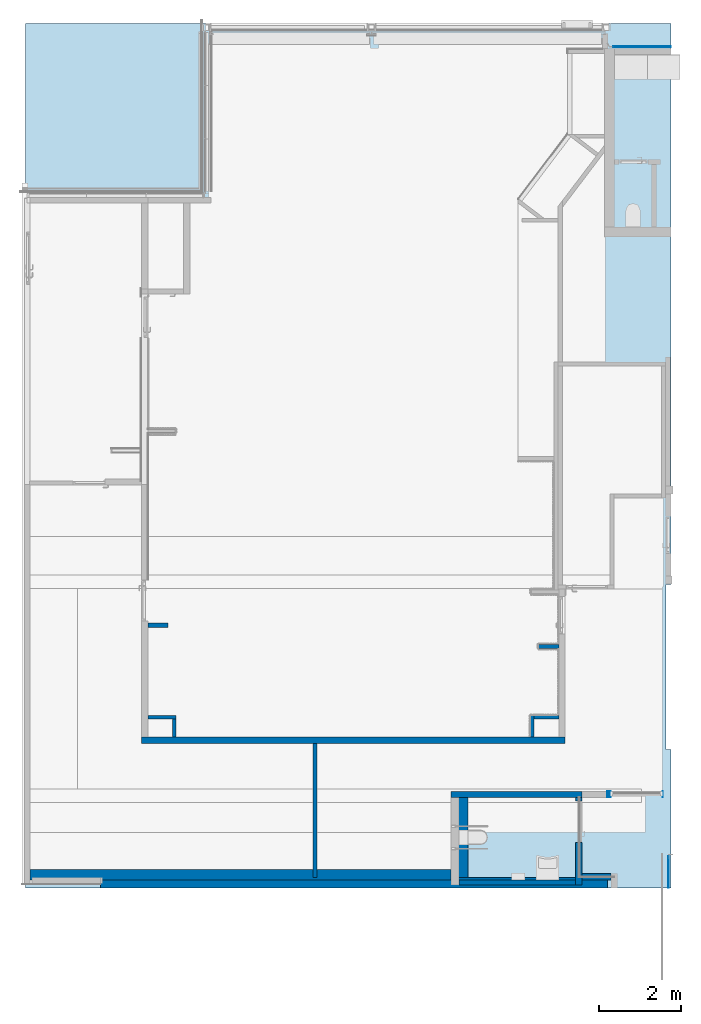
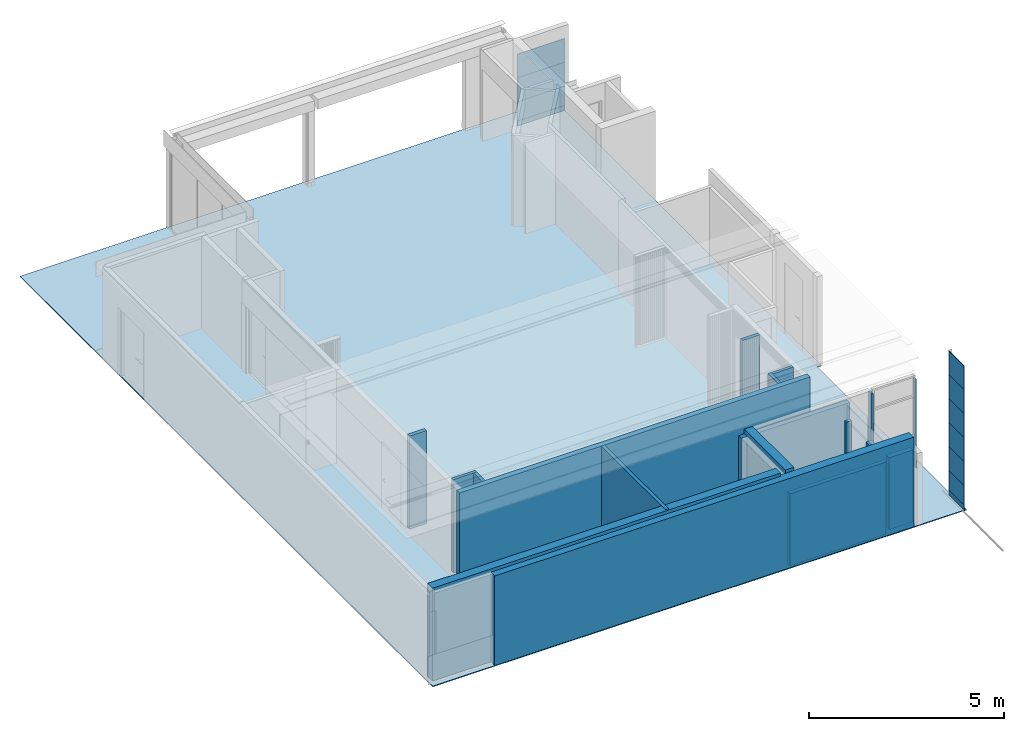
# One storey, part 20 of 37: 16 walls, 11 plates, 1 slab, 2 openings, 2 elements without a shape of their own.
"""IFC2X3 building model written with IfcOpenShell, lengths in millimetres."""

from ifc_helpers import new_model, entity, si_unit, converted_unit, derived_unit, direction, frame, frame_2d, origin, origin_with_axes, place, context, subcontext, project, spatial, rectangle, extrude, clip, halfspace, faceted_brep, material, layer, layer_set, layer_usage, type_object, element, aggregate, save


model = new_model("IFC2X3")

# Units and contexts
model_context = context("Model", 3, precision=0.01, world=frame((0.0, 4.29681676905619e-09, 0.0)), true_north=direction((4.01073788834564e-13, 1.0)))
plan_context = context("Plan", 3, precision=0.01, world=frame((0.0, 4.29681676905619e-09, 0.0)), true_north=direction((4.01073788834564e-13, 1.0)))
body_context = subcontext(model_context, "Body", "Model", "MODEL_VIEW")
ifc_project = project(units=[converted_unit("PLANEANGLEUNIT", "DEGREE", entity("IfcPositiveLengthMeasure", 0.0174532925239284), si_unit("PLANEANGLEUNIT", "RADIAN"), dimensions=[0, 0, 0, 0, 0, 0, 0]), si_unit("AREAUNIT", "SQUARE_METRE"), si_unit("LENGTHUNIT", "METRE", prefix="MILLI"), si_unit("MASSUNIT", "GRAM", prefix="KILO"), si_unit("POWERUNIT", "WATT"), si_unit("PRESSUREUNIT", "PASCAL"), si_unit("FORCEUNIT", "NEWTON", prefix="KILO"), si_unit("ELECTRICVOLTAGEUNIT", "VOLT"), si_unit("ELECTRICCURRENTUNIT", "AMPERE"), si_unit("THERMODYNAMICTEMPERATUREUNIT", "DEGREE_CELSIUS"), si_unit("TIMEUNIT", "SECOND"), si_unit("VOLUMEUNIT", "CUBIC_METRE"), derived_unit("LINEARVELOCITYUNIT", [(si_unit("LENGTHUNIT", "METRE"), 1), (si_unit("TIMEUNIT", "SECOND"), -1)]), derived_unit("VOLUMETRICFLOWRATEUNIT", [(si_unit("VOLUMEUNIT", "CUBIC_METRE"), 1), (si_unit("TIMEUNIT", "SECOND"), -1)]), derived_unit("THERMALTRANSMITTANCEUNIT", [(si_unit("POWERUNIT", "WATT"), 1), (si_unit("THERMODYNAMICTEMPERATUREUNIT", "KELVIN"), -1), (si_unit("AREAUNIT", "SQUARE_METRE"), -1)]), derived_unit("SOUNDPRESSUREUNIT", [(si_unit("PRESSUREUNIT", "PASCAL"), 1)])], contexts=[model_context, plan_context])

# Site, building, storey
site_placement = place(None, origin_with_axes())
site = spatial("IfcSite", under=ifc_project, at=site_placement, Name="ENGM", CompositionType="ELEMENT")
building_placement = place(site_placement, origin_with_axes())
building = spatial("IfcBuilding", under=site, at=building_placement, Name="TS", CompositionType="ELEMENT")
storey_placement = place(building_placement, frame((0.0, 0.0, 210900.0), z_axis=(0.0, 0.0, 1.0), x_axis=(1.0, 0.0, 0.0)))
storey = spatial("IfcBuildingStorey", under=building, at=storey_placement, Name="Nivå F", CompositionType="ELEMENT", Elevation=210900.0)

# Curtain wall, plates
curtain_wall_type_1 = type_object("IfcCurtainWallType", PredefinedType="NOTDEFINED")
curtain_wall_1_placement = place(storey_placement, frame((0.0, 0.0, -210900.0), z_axis=(0.0, 0.0, 1.0), x_axis=(1.0, 0.0, 0.0)))
curtain_wall_1 = element("IfcCurtainWall", 1, at=curtain_wall_1_placement, inside=storey, type_object=curtain_wall_type_1)
ifc_material_1 = material(Name="Metal - Steel")
plate_type_1 = type_object("IfcPlateType", Name="System Panel:A245 - Metallkasett Inv.20mm - Offset 30mm", PredefinedType="CURTAIN_PANEL", material=ifc_material_1)
plate_1_placement = place(curtain_wall_1_placement, frame((536299.987500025, 440039.80625, 210910.0), z_axis=(0.0, 0.0, 1.0), x_axis=(0.0, -1.0, 0.0)))
plate_1 = element("IfcPlate", 2, at=plate_1_placement, type_object=plate_type_1, Name="System Panel:A245 - Metallkasett Inv.20mm - Offset 30mm", ObjectType="System Panel:A245 - Metallkasett Inv.20mm - Offset 30mm", context=body_context, shape_type="Brep", body=[
    faceted_brep([(-735.19374999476, -50.0, -2.70006239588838e-13), (-735.19374999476, -30.0, -2.70006239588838e-13), (-1509.79374999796, -30.0, -2.70006239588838e-13), (-1509.79374999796, -50.0, -2.70006239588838e-13), (-1509.79374999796, -30.0, 150.0), (-1509.79374999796, -50.0, 150.0), (-735.19374999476, -30.0, 150.0), (-735.19374999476, -50.0, 150.0)], [[[0, 1, 2, 3]], [[3, 2, 4, 5]], [[6, 7, 5, 4]], [[7, 0, 3, 5]], [[1, 6, 4, 2]], [[7, 6, 1, 0]]], orient=[[False], [False], [False], [False], [False], [False]]),
])
plate_type_2 = type_object("IfcPlateType", Name="System Panel:A245 - Metallkasett Inv.20mm - Offset 30mm", PredefinedType="CURTAIN_PANEL", material=ifc_material_1)
plate_2_placement = place(curtain_wall_1_placement, frame((536299.987500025, 440184.80625, 211060.0), z_axis=(0.0, 0.0, 1.0), x_axis=(0.0, -1.0, 0.0)))
plate_2 = element("IfcPlate", 3, at=plate_2_placement, type_object=plate_type_2, Name="System Panel:A245 - Metallkasett Inv.20mm - Offset 30mm", ObjectType="System Panel:A245 - Metallkasett Inv.20mm - Offset 30mm", context=body_context, shape_type="Brep", body=[
    faceted_brep([(-590.19374999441, -50.0, 600.000000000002), (-590.193749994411, -50.0, 0.0), (-1364.79374999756, -50.0, 0.0), (-1364.79374999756, -50.0, 600.000000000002), (-590.19374999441, -30.0, 0.0), (-590.193749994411, -30.0, 600.000000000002), (-1364.79374999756, -30.0, 600.000000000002), (-1364.79374999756, -30.0, 0.0)], [[[0, 1, 2, 3]], [[4, 5, 6, 7]], [[7, 6, 3, 2]], [[1, 4, 7, 2]], [[5, 0, 3, 6]], [[5, 4, 1, 0]]], orient=[[False], [False], [False], [False], [False], [False]]),
])
plate_type_3 = type_object("IfcPlateType", Name="System Panel:A245 - Metallkasett Inv.20mm - Offset 30mm", PredefinedType="CURTAIN_PANEL", material=ifc_material_1)
plate_3_placement = place(curtain_wall_1_placement, frame((536299.987500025, 440184.80625, 213910.0), z_axis=(0.0, 0.0, 1.0), x_axis=(0.0, -1.0, 0.0)))
plate_3 = element("IfcPlate", 4, at=plate_3_placement, type_object=plate_type_3, Name="System Panel:A245 - Metallkasett Inv.20mm - Offset 30mm", ObjectType="System Panel:A245 - Metallkasett Inv.20mm - Offset 30mm", context=body_context, shape_type="Brep", body=[
    faceted_brep([(-590.193749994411, -50.0, 750.000000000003), (-590.193749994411, -50.0, 0.0), (-1364.99999999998, -50.0, 0.0), (-1364.99999999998, -50.0, 750.000000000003), (-590.193749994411, -30.0, 0.0), (-590.193749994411, -30.0, 750.000000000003), (-1364.99999999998, -30.0, 750.000000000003), (-1364.99999999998, -30.0, 0.0)], [[[0, 1, 2, 3]], [[4, 5, 6, 7]], [[7, 6, 3, 2]], [[1, 4, 7, 2]], [[5, 0, 3, 6]], [[5, 4, 1, 0]]], orient=[[False], [False], [False], [False], [False], [False]]),
])
plate_4_placement = place(curtain_wall_1_placement, frame((536299.987500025, 440184.80625, 213160.0), z_axis=(0.0, 0.0, 1.0), x_axis=(0.0, -1.0, 0.0)))
plate_4 = element("IfcPlate", 5, at=plate_4_placement, type_object=plate_type_3, Name="System Panel:A245 - Metallkasett Inv.20mm - Offset 30mm", ObjectType="System Panel:A245 - Metallkasett Inv.20mm - Offset 30mm", context=body_context, shape_type="Brep", body=[
    faceted_brep([(-590.193749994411, -50.0, 750.000000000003), (-590.193749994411, -50.0, 0.0), (-1364.99999999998, -50.0, 0.0), (-1364.99999999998, -50.0, 750.000000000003), (-590.193749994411, -30.0, 0.0), (-590.193749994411, -30.0, 750.000000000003), (-1364.99999999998, -30.0, 750.000000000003), (-1364.99999999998, -30.0, 0.0)], [[[0, 1, 2, 3]], [[4, 5, 6, 7]], [[7, 6, 3, 2]], [[1, 4, 7, 2]], [[5, 0, 3, 6]], [[5, 4, 1, 0]]], orient=[[False], [False], [False], [False], [False], [False]]),
])
plate_5_placement = place(curtain_wall_1_placement, frame((536299.987500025, 440184.80625, 212410.0), z_axis=(0.0, 0.0, 1.0), x_axis=(0.0, -1.0, 0.0)))
plate_5 = element("IfcPlate", 6, at=plate_5_placement, type_object=plate_type_3, Name="System Panel:A245 - Metallkasett Inv.20mm - Offset 30mm", ObjectType="System Panel:A245 - Metallkasett Inv.20mm - Offset 30mm", context=body_context, shape_type="Brep", body=[
    faceted_brep([(-590.193749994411, -50.0, 750.000000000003), (-590.193749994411, -50.0, 0.0), (-1364.99999999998, -50.0, 0.0), (-1364.99999999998, -50.0, 750.000000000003), (-590.193749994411, -30.0, 0.0), (-590.193749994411, -30.0, 750.000000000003), (-1364.99999999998, -30.0, 750.000000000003), (-1364.99999999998, -30.0, 0.0)], [[[0, 1, 2, 3]], [[4, 5, 6, 7]], [[7, 6, 3, 2]], [[1, 4, 7, 2]], [[5, 0, 3, 6]], [[5, 4, 1, 0]]], orient=[[False], [False], [False], [False], [False], [False]]),
])
plate_6_placement = place(curtain_wall_1_placement, frame((536299.987500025, 440184.80625, 211660.0), z_axis=(0.0, 0.0, 1.0), x_axis=(0.0, -1.0, 0.0)))
plate_6 = element("IfcPlate", 7, at=plate_6_placement, type_object=plate_type_3, Name="System Panel:A245 - Metallkasett Inv.20mm - Offset 30mm", ObjectType="System Panel:A245 - Metallkasett Inv.20mm - Offset 30mm", context=body_context, shape_type="Brep", body=[
    faceted_brep([(-590.193749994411, -50.0, 750.000000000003), (-590.193749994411, -50.0, 0.0), (-1364.99999999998, -50.0, 0.0), (-1364.99999999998, -50.0, 750.000000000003), (-590.193749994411, -30.0, 0.0), (-590.193749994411, -30.0, 750.000000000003), (-1364.99999999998, -30.0, 750.000000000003), (-1364.99999999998, -30.0, 0.0)], [[[0, 1, 2, 3]], [[4, 5, 6, 7]], [[7, 6, 3, 2]], [[1, 4, 7, 2]], [[5, 0, 3, 6]], [[5, 4, 1, 0]]], orient=[[False], [False], [False], [False], [False], [False]]),
])
plate_type_4 = type_object("IfcPlateType", Name="System Panel:A245 - Metallkasett Inv.20mm - Offset 30mm", PredefinedType="CURTAIN_PANEL", material=ifc_material_1)
plate_7_placement = place(curtain_wall_1_placement, frame((536299.987500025, 440184.80625, 214660.0), z_axis=(0.0, 0.0, 1.0), x_axis=(0.0, -1.0, 0.0)))
plate_7 = element("IfcPlate", 8, at=plate_7_placement, type_object=plate_type_4, Name="System Panel:A245 - Metallkasett Inv.20mm - Offset 30mm", ObjectType="System Panel:A245 - Metallkasett Inv.20mm - Offset 30mm", context=body_context, shape_type="Brep", body=[
    faceted_brep([(-590.193749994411, -50.0000000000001, 740.0), (-590.193749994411, -50.0, 0.0), (-1364.99999999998, -50.0, 0.0), (-1364.99999999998, -50.0, 740.000000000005), (-590.193749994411, -30.0, 0.0), (-590.193749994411, -30.0000000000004, 740.0), (-1364.99999999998, -30.0, 740.000000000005), (-1364.99999999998, -30.0, 0.0)], [[[0, 1, 2, 3]], [[4, 5, 6, 7]], [[7, 6, 3, 2]], [[1, 4, 7, 2]], [[5, 0, 3, 6]], [[5, 4, 1, 0]]], orient=[[False], [False], [False], [False], [False], [False]]),
])
aggregate(curtain_wall_1, [plate_7, plate_3, plate_4, plate_5, plate_6, plate_2, plate_1])

curtain_wall_type_2 = type_object("IfcCurtainWallType", Name="Curtain Wall:A245 - IMK (Innvendig Metall Kledning) 20mm - Offset 30mm", PredefinedType="NOTDEFINED")
curtain_wall_2_placement = place(storey_placement, frame((0.0, 0.0, -210900.0), z_axis=(0.0, 0.0, 1.0), x_axis=(1.0, 0.0, 0.0)))
curtain_wall_2 = element("IfcCurtainWall", 9, at=curtain_wall_2_placement, inside=storey, type_object=curtain_wall_type_2, Name="Curtain Wall:A245 - IMK (Innvendig Metall Kledning) 20mm - Offset 30mm", ObjectType="Curtain Wall:A245 - IMK (Innvendig Metall Kledning) 20mm - Offset 30mm")
plate_type_5 = type_object("IfcPlateType", Name="System Panel:A240 - Metallkasett Inv.20mm - Offset 30mm", PredefinedType="CURTAIN_PANEL", material=ifc_material_1)
plate_8_placement = place(curtain_wall_2_placement, frame((538079.841852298, 461299.300000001, 210910.0), z_axis=(0.0, 0.0, 1.0), x_axis=(1.0, 0.0, 0.0)))
plate_8 = element("IfcPlate", 10, at=plate_8_placement, type_object=plate_type_5, Name="System Panel:A240 - Metallkasett Inv.20mm - Offset 30mm", ObjectType="System Panel:A240 - Metallkasett Inv.20mm - Offset 30mm", context=body_context, shape_type="Brep", body=[
    faceted_brep([(-1759.34185229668, 30.0, -2.70006239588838e-13), (-1759.34185229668, 50.0, -2.70006239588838e-13), (-3165.15814768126, 50.0, -2.70006239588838e-13), (-3165.15814768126, 30.0, -2.70006239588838e-13), (-3165.15814768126, 50.0, 150.0), (-3165.15814768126, 30.0, 150.0), (-1759.34185229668, 50.0, 150.0), (-1759.34185229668, 30.0, 150.0)], [[[0, 1, 2, 3]], [[3, 2, 4, 5]], [[6, 7, 5, 4]], [[7, 0, 3, 5]], [[1, 6, 4, 2]], [[7, 6, 1, 0]]], orient=[[False], [False], [False], [False], [False], [False]]),
])
plate_type_6 = type_object("IfcPlateType", Name="System Panel:A240 - Metallkasett Inv.20mm - Offset 30mm", PredefinedType="CURTAIN_PANEL", material=ifc_material_1)
plate_9_placement = place(curtain_wall_2_placement, frame((535889.966852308, 461299.300000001, 211060.0), z_axis=(0.0, 0.0, 1.0), x_axis=(1.0, 0.0, 0.0)))
plate_9 = element("IfcPlate", 11, at=plate_9_placement, type_object=plate_type_6, Name="System Panel:A240 - Metallkasett Inv.20mm - Offset 30mm", ObjectType="System Panel:A240 - Metallkasett Inv.20mm - Offset 30mm", context=body_context, shape_type="Brep", body=[
    faceted_brep([(430.533147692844, 30.0, 600.000000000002), (430.533147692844, 30.0, 0.0), (-975.283147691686, 30.0, 0.0), (-975.283147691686, 30.0, 600.000000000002), (430.533147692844, 50.0, 0.0), (430.533147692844, 50.0, 600.000000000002), (-975.283147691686, 50.0, 600.000000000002), (-975.283147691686, 50.0, 0.0)], [[[0, 1, 2, 3]], [[4, 5, 6, 7]], [[7, 6, 3, 2]], [[1, 4, 7, 2]], [[5, 0, 3, 6]], [[5, 4, 1, 0]]], orient=[[False], [False], [False], [False], [False], [False]]),
])
plate_type_7 = type_object("IfcPlateType", Name="System Panel:A240 - Metallkasett Inv.20mm - Offset 30mm", PredefinedType="CURTAIN_PANEL", material=ifc_material_1)
plate_10_placement = place(curtain_wall_2_placement, frame((535889.966852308, 461299.300000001, 211660.0), z_axis=(0.0, 0.0, 1.0), x_axis=(1.0, 0.0, 0.0)))
plate_10 = element("IfcPlate", 12, at=plate_10_placement, type_object=plate_type_7, Name="System Panel:A240 - Metallkasett Inv.20mm - Offset 30mm", ObjectType="System Panel:A240 - Metallkasett Inv.20mm - Offset 30mm", context=body_context, shape_type="Brep", body=[
    faceted_brep([(430.533147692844, 30.0, 750.000000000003), (430.533147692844, 30.0, 0.0), (-975.283147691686, 30.0, 0.0), (-975.283147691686, 30.0, 750.000000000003), (430.533147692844, 50.0, 0.0), (430.533147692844, 50.0, 750.000000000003), (-975.283147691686, 50.0, 750.000000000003), (-975.283147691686, 50.0, 0.0)], [[[0, 1, 2, 3]], [[4, 5, 6, 7]], [[7, 6, 3, 2]], [[1, 4, 7, 2]], [[5, 0, 3, 6]], [[5, 4, 1, 0]]], orient=[[False], [False], [False], [False], [False], [False]]),
])
plate_type_8 = type_object("IfcPlateType", Name="System Panel:A240 - Metallkasett Inv.20mm - Offset 30mm", PredefinedType="CURTAIN_PANEL", material=ifc_material_1)
plate_11_placement = place(curtain_wall_2_placement, frame((535889.966852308, 461299.300000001, 212410.0), z_axis=(0.0, 0.0, 1.0), x_axis=(1.0, 0.0, 0.0)))
plate_11 = element("IfcPlate", 13, at=plate_11_placement, type_object=plate_type_8, Name="System Panel:A240 - Metallkasett Inv.20mm - Offset 30mm", ObjectType="System Panel:A240 - Metallkasett Inv.20mm - Offset 30mm", context=body_context, shape_type="Brep", body=[
    faceted_brep([(430.533147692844, 30.0, 740.000000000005), (430.533147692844, 30.0, 0.0), (-975.283147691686, 30.0, 0.0), (-975.283147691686, 30.0, 740.000000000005), (430.533147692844, 50.0, 0.0), (430.533147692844, 50.0, 740.000000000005), (-975.283147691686, 50.0, 740.000000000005), (-975.283147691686, 50.0, 0.0)], [[[0, 1, 2, 3]], [[4, 5, 6, 7]], [[7, 6, 3, 2]], [[1, 4, 7, 2]], [[5, 0, 3, 6]], [[5, 4, 1, 0]]], orient=[[False], [False], [False], [False], [False], [False]]),
])
aggregate(curtain_wall_2, [plate_11, plate_10, plate_9, plate_8])

# Slab
ifc_material_2 = material(Name="T2_Naturstein - Skiffer")
ifc_layer_1 = layer(ifc_material_2, 20.0)
ifc_material_3 = material(Name="T2 - Dekke uten skravur")
ifc_layer_2 = layer(ifc_material_3, 5.0)
ifc_layer_set_1 = layer_set([ifc_layer_1, ifc_layer_2], Name="Floor:A254  - GU-N05 - Naturstein inkl. lim 2")
slab_type = type_object("IfcSlabType", Name="Floor:A254  - GU-N05 - Naturstein inkl. lim 2", PredefinedType="FLOOR", material=ifc_layer_set_1)
slab_placement = place(storey_placement, frame((510031.253005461, 360264.181033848, -25.0), z_axis=(0.0, 0.0, 1.0), x_axis=(1.0, 0.0, 0.0)))
element("IfcSlab", 14, at=slab_placement, inside=storey, type_object=slab_type, Name="Floor:A254  - GU-N05 - Naturstein inkl. lim 2", ObjectType="Floor:A254  - GU-N05 - Naturstein inkl. lim 2", PredefinedType="FLOOR", context=body_context, shape_type="Brep", body=[
    faceted_brep([(26289.2469945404, 83888.4625000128, 25.0), (26289.2469945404, 80510.8189661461, 25.0000000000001), (10513.7344945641, 80510.8189661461, 24.9999999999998), (10513.7344945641, 101635.818966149, 24.9999999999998), (26289.2469945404, 101635.818966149, 24.9999999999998), (26289.2469945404, 87932.6375000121, 25.0), (26166.0000000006, 87932.6375000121, 25.0), (26166.0000000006, 83888.4625000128, 25.0), (26289.2469945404, 87932.6375000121, -1.16386900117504e-11), (26289.2469945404, 101635.818966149, -1.18234311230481e-11), (10513.7344945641, 101635.818966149, -1.18234311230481e-11), (10513.7344945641, 80510.8189661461, -1.18234311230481e-11), (26289.2469945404, 80510.8189661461, -1.17097442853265e-11), (26289.2469945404, 83888.4625000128, -1.16386900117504e-11), (26166.0000000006, 83888.4625000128, -1.16386900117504e-11), (26166.0000000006, 87932.6375000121, -1.16386900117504e-11)], [[[0, 1, 2, 3, 4, 5, 6, 7]], [[8, 9, 10, 11, 12, 13, 14, 15]], [[13, 0, 7, 14]], [[6, 15, 14, 7]], [[5, 8, 15, 6]], [[1, 0, 13, 12]], [[9, 8, 5, 4]], [[4, 3, 10, 9]], [[3, 2, 11, 10]], [[2, 1, 12, 11]]], orient=[[False], [False], [False], [False], [False], [False], [False], [False], [False], [False]]),
])

# Walls
ifc_material_4 = material(Name="Plate - Gips")
ifc_layer_3 = layer(ifc_material_4, 12.5)
ifc_layer_4 = layer(ifc_material_4, 12.5)
ifc_material_5 = material(Name="_NSW Stålstender, uisolert")
ifc_layer_5 = layer(ifc_material_5, 200.0)
ifc_layer_6 = layer(ifc_material_4, 12.5)
ifc_layer_7 = layer(ifc_material_4, 12.5)
ifc_layer_set_2 = layer_set([ifc_layer_3, ifc_layer_4, ifc_layer_5, ifc_layer_6, ifc_layer_7], Name="Basic Wall:A241 - GSVS-50 (100/100x2 gg-gg)")
ifc_layer_usage_1 = layer_usage(ifc_layer_set_2, "AXIS2", "NEGATIVE", 125.0)
wall_type_1 = type_object("IfcWallType", Name="Basic Wall:A241 - GSVS-50 (100/100x2 gg-gg)", PredefinedType="STANDARD", material=ifc_layer_set_2)
wall_1_placement = place(storey_placement, frame((520656.000000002, 441097.999999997, 0.0), z_axis=(0.0, 0.0, 1.0), x_axis=(1.0, 0.0, 0.0)))
element("IfcWallStandardCase", 15, at=wall_1_placement, inside=storey, type_object=wall_type_1, material=ifc_layer_usage_1, Name="Basic Wall:A241 - GSVS-50 (100/100x2 gg-gg)", ObjectType="Basic Wall:A241 - GSVS-50 (100/100x2 gg-gg)", context=body_context, shape_type="SweptSolid", body=[
    extrude(rectangle(XDim=10289.4874999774, YDim=249.999999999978, at=frame_2d((5144.74374998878, -1.25410792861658e-11), x_axis=(-1.0, 0.0))), origin(), (0.0, 0.0, 1.0), 2899.99999999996),
])
ifc_layer_usage_2 = layer_usage(ifc_layer_set_2, "AXIS2", "NEGATIVE", 125.0)
wall_2_placement = place(storey_placement, frame((531240.000000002, 441024.999999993, 0.0), z_axis=(0.0, 0.0, 1.0), x_axis=(0.0, 1.0, 0.0)))
element("IfcWallStandardCase", 16, at=wall_2_placement, inside=storey, type_object=wall_type_1, material=ifc_layer_usage_2, Name="Basic Wall:A241 - GSVS-50 (100/100x2 gg-gg)", ObjectType="Basic Wall:A241 - GSVS-50 (100/100x2 gg-gg)", context=body_context, shape_type="SweptSolid", body=[
    extrude(rectangle(XDim=2110.00000000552, YDim=249.999999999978, at=frame_2d((1055.00000000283, 0.0), x_axis=(-1.0, 0.0))), origin(), (0.0, 0.0, 1.0), 2899.99999999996),
])
ifc_layer_usage_3 = layer_usage(ifc_layer_set_2, "AXIS2", "NEGATIVE", 125.0)
wall_3_placement = place(storey_placement, frame((522377.500000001, 440899.999999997, 0.0), z_axis=(0.0, 0.0, 1.0), x_axis=(1.0, 0.0, 0.0)))
element("IfcWallStandardCase", 17, at=wall_3_placement, inside=storey, type_object=wall_type_1, material=ifc_layer_usage_3, Name="Basic Wall:A241 - GSVS-50 (100/100x2 gg-gg)", ObjectType="Basic Wall:A241 - GSVS-50 (100/100x2 gg-gg)", context=body_context, shape_type="SweptSolid", body=[
    extrude(rectangle(XDim=12392.5000000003, YDim=249.999999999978, at=frame_2d((6196.25000000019, 1.08713038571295e-12), x_axis=(-1.0, 0.0))), origin(), (0.0, 0.0, 1.0), 2799.99999999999),
])
ifc_layer_8 = layer(ifc_material_4, 12.5)
ifc_material_6 = material(Name="_NSW X-finer")
ifc_layer_9 = layer(ifc_material_6, 15.0)
ifc_material_7 = material(Name="_NSW Stålstender, isolert UTEN SKRAVUR")
ifc_layer_10 = layer(ifc_material_7, 100.0)
ifc_layer_11 = layer(ifc_material_6, 15.0)
ifc_layer_12 = layer(ifc_material_4, 12.5)
ifc_layer_set_3 = layer_set([ifc_layer_8, ifc_layer_9, ifc_layer_10, ifc_layer_11, ifc_layer_12], Name="Basic Wall:A241 - SXVXS-100")
ifc_layer_usage_4 = layer_usage(ifc_layer_set_3, "AXIS2", "NEGATIVE", 77.5)
wall_type_2 = type_object("IfcWallType", Name="Basic Wall:A241 - SXVXS-100", PredefinedType="STANDARD", material=ifc_layer_set_3)
wall_4_placement = place(storey_placement, frame((523379.500000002, 444385.000000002, 0.0), z_axis=(0.0, 0.0, 1.0), x_axis=(1.0, 0.0, 0.0)))
element("IfcWallStandardCase", 18, at=wall_4_placement, inside=storey, type_object=wall_type_2, material=ifc_layer_usage_4, Name="Basic Wall:A241 - SXVXS-100", ObjectType="Basic Wall:A241 - SXVXS-100", context=body_context, shape_type="SweptSolid", body=[
    extrude(rectangle(XDim=10358.0374999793, YDim=155.000000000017, at=frame_2d((5179.01874998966, 1.41895384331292e-11), x_axis=(-1.0, 0.0))), origin(), (0.0, 0.0, 1.0), 2899.99999999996),
])
ifc_layer_13 = layer(ifc_material_4, 12.5)
ifc_layer_14 = layer(ifc_material_6, 12.0)
ifc_layer_15 = layer(ifc_material_5, 100.0)
ifc_layer_set_4 = layer_set([ifc_layer_13, ifc_layer_14, ifc_layer_15], Name="Basic Wall:A241 - SXV-100")
ifc_layer_usage_5 = layer_usage(ifc_layer_set_4, "AXIS2", "POSITIVE", -62.25)
wall_type_3 = type_object("IfcWallType", Name="Basic Wall:A241 - SXV-100", PredefinedType="STANDARD", material=ifc_layer_set_4)
wall_5_placement = place(storey_placement, frame((533989.987499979, 440911.250000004, 0.0), z_axis=(0.0, 0.0, 1.0), x_axis=(-1.0, 0.0, 0.0)))
element("IfcWallStandardCase", 19, at=wall_5_placement, inside=storey, type_object=wall_type_3, material=ifc_layer_usage_5, Name="Basic Wall:A241 - SXV-100", ObjectType="Basic Wall:A241 - SXV-100", context=body_context, shape_type="SweptSolid", body=[
    extrude(rectangle(XDim=2843.99999999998, YDim=124.49999999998, at=frame_2d((1421.99999999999, 0.0), x_axis=(-1.0, 0.0))), origin(), (0.0, 0.0, 1.0), 2250.00000000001),
])
ifc_layer_16 = layer(ifc_material_4, 12.5)
ifc_layer_17 = layer(ifc_material_4, 12.5)
ifc_layer_18 = layer(ifc_material_5, 100.0)
ifc_material_8 = material(Name="T2_Gips Robust")
ifc_layer_19 = layer(ifc_material_8, 12.5)
ifc_layer_set_5 = layer_set([ifc_layer_16, ifc_layer_17, ifc_layer_18, ifc_layer_19], Name="Basic Wall:A241 - SSVR-100")
ifc_layer_usage_6 = layer_usage(ifc_layer_set_5, "AXIS2", "POSITIVE", -68.75)
wall_type_4 = type_object("IfcWallType", Name="Basic Wall:A241 - SSVR-100", PredefinedType="STANDARD", material=ifc_layer_set_5)
wall_6_placement = place(storey_placement, frame((534145.987499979, 443056.250000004, 0.0), z_axis=(0.0, 0.0, 1.0), x_axis=(-1.0, 0.0, 0.0)))
element("IfcWallStandardCase", 20, at=wall_6_placement, inside=storey, type_object=wall_type_4, material=ifc_layer_usage_6, Name="Basic Wall:A241 - SSVR-100", ObjectType="Basic Wall:A241 - SSVR-100", context=body_context, shape_type="SweptSolid", body=[
    extrude(rectangle(XDim=3200.50000000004, YDim=137.499999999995, at=frame_2d((1600.25000000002, 3.46531692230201e-11), x_axis=(-1.0, 0.0))), origin(), (0.0, 0.0, 1.0), 2760.0),
])

# Wall, opening
ifc_material_9 = material(Name="T2_Gips Fibergips")
ifc_layer_20 = layer(ifc_material_9, 13.0)
ifc_material_10 = material(Name="T2 - Kryssfiner")
ifc_layer_21 = layer(ifc_material_10, 15.0)
ifc_layer_22 = layer(ifc_material_5, 100.0)
ifc_layer_23 = layer(ifc_material_10, 15.0)
ifc_layer_24 = layer(ifc_material_9, 13.0)
ifc_layer_set_6 = layer_set([ifc_layer_20, ifc_layer_21, ifc_layer_22, ifc_layer_23, ifc_layer_24], Name="Basic Wall:A241 - RXVXR-100")
ifc_layer_usage_7 = layer_usage(ifc_layer_set_6, "AXIS2", "NEGATIVE", 78.0)
wall_type_5 = type_object("IfcWallType", Name="Basic Wall:A241 - RXVXR-100", PredefinedType="STANDARD", material=ifc_layer_set_6)
wall_7_placement = place(storey_placement, frame((534067.987499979, 442987.500000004, 0.0), z_axis=(0.0, 0.0, 1.0), x_axis=(0.0, -1.0, 0.0)))
wall_7 = element("IfcWallStandardCase", 21, at=wall_7_placement, inside=storey, type_object=wall_type_5, material=ifc_layer_usage_7, Name="Basic Wall:A241 - RXVXR-100", ObjectType="Basic Wall:A241 - RXVXR-100", context=body_context, shape_type="SweptSolid", body=[
    extrude(rectangle(XDim=156.000000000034, YDim=2138.50000000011, at=frame_2d((1069.25000000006, 0.0), x_axis=(0.0, -1.0))), origin(), (0.0, 0.0, 1.0), 2250.00000000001),
])
opening_1_placement = place(wall_7_placement, frame((90.0, -78.0, 0.0), z_axis=(0.0, 0.0, 1.0), x_axis=(1.0, 0.0, 0.0)))
element("IfcOpeningElement", 22, at=opening_1_placement, cuts=wall_7, Name="A20 - Slagdør - Enkel:A243 - DI_LTO - 0990 x 2240 mm:1", ObjectType="Opening", context=body_context, shape_type="SweptSolid", body=[
    extrude(rectangle(XDim=2259.99999999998, YDim=1010.0, at=frame_2d((1129.99999999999, 505.0), x_axis=(1.0, 0.0))), frame((0.0, 0.0, 0.0), z_axis=(0.0, 1.0, 0.0), x_axis=(0.0, 0.0, 1.0)), (0.0, 0.0, 1.0), 156.0),
])

# Wall
ifc_layer_usage_8 = layer_usage(ifc_layer_set_6, "AXIS2", "POSITIVE", -78.0)
wall_8_placement = place(storey_placement, frame((534858.987500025, 441050.999999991, 0.0), z_axis=(0.0, 0.0, 1.0), x_axis=(-1.0, 0.0, 0.0)))
element("IfcWallStandardCase", 23, at=wall_8_placement, inside=storey, type_object=wall_type_5, material=ifc_layer_usage_8, Name="Basic Wall:A241 - RXVXR-100", ObjectType="Basic Wall:A241 - RXVXR-100", context=body_context, shape_type="SweptSolid", body=[
    extrude(rectangle(XDim=713.00000004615, YDim=156.000000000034, at=frame_2d((356.500000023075, 0.0), x_axis=(-1.0, 0.0))), origin(), (0.0, 0.0, 1.0), 2250.00000000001),
])

# Wall, opening
ifc_layer_25 = layer(ifc_material_4, 12.5)
ifc_layer_26 = layer(ifc_material_4, 12.5)
ifc_layer_27 = layer(ifc_material_5, 100.0)
ifc_layer_28 = layer(ifc_material_4, 12.5)
ifc_layer_29 = layer(ifc_material_4, 12.5)
ifc_layer_set_7 = layer_set([ifc_layer_25, ifc_layer_26, ifc_layer_27, ifc_layer_28, ifc_layer_29], Name="Basic Wall:A241 - SVS-101")
ifc_layer_usage_9 = layer_usage(ifc_layer_set_7, "AXIS2", "NEGATIVE", 75.0)
wall_type_6 = type_object("IfcWallType", Name="Basic Wall:A241 - SVS-101", PredefinedType="STANDARD", material=ifc_layer_set_7)
wall_9_placement = place(storey_placement, frame((536120.23749998, 443059.999999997, 22.0), z_axis=(0.0, 0.0, 1.0), x_axis=(-1.0, 0.0, 0.0)))
wall_9 = element("IfcWallStandardCase", 24, at=wall_9_placement, inside=storey, type_object=wall_type_6, material=ifc_layer_usage_9, Name="Basic Wall:A241 - SVS-101", ObjectType="Basic Wall:A241 - SVS-101", context=body_context, shape_type="Clipping", body=[
    clip(extrude(rectangle(XDim=1350.23749997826, YDim=150.000000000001, at=frame_2d((675.11874998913, -3.46531692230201e-11), x_axis=(1.0, 0.0))), origin(), (0.0, 0.0, 1.0), 2777.99999999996), halfspace(origin(), True)),
])
opening_2_placement = place(wall_9_placement, origin_with_axes())
element("IfcOpeningElement", 25, at=opening_2_placement, cuts=wall_9, Name="Basic Wall:A241 - SVS-101", ObjectType="Opening", context=body_context, shape_type="SweptSolid", body=[
    extrude(rectangle(XDim=2890.0, YDim=1274.01249999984, at=frame_2d((0.0, 0.0), x_axis=(0.0, 1.0))), frame((637.243750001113, -227.400000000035, 1433.0), z_axis=(0.0, 1.0, 0.0), x_axis=(-1.0, 0.0, 0.0)), (0.0, 0.0, 1.0), 454.800000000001),
])

# Walls
ifc_layer_30 = layer(ifc_material_4, 12.5)
ifc_layer_31 = layer(ifc_material_5, 75.0)
ifc_layer_32 = layer(ifc_material_4, 12.5)
ifc_layer_set_8 = layer_set([ifc_layer_30, ifc_layer_31, ifc_layer_32], Name="Basic Wall:A241 - RVR-75.1")
ifc_layer_usage_10 = layer_usage(ifc_layer_set_8, "AXIS2", "NEGATIVE", 50.0)
wall_type_7 = type_object("IfcWallType", Name="Basic Wall:A241 - RVR-75.1", PredefinedType="STANDARD", material=ifc_layer_set_8)
wall_10_placement = place(storey_placement, frame((527618.278604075, 444307.5, 0.0), z_axis=(0.0, 0.0, 1.0), x_axis=(0.0, -1.0, 0.0)))
element("IfcWallStandardCase", 26, at=wall_10_placement, inside=storey, type_object=wall_type_7, material=ifc_layer_usage_10, Name="Basic Wall:A241 - RVR-75.1", ObjectType="Basic Wall:A241 - RVR-75.1", context=body_context, shape_type="SweptSolid", body=[
    extrude(rectangle(XDim=3282.50000000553, YDim=99.9999999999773, at=frame_2d((1641.25000000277, 3.46531692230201e-11), x_axis=(-1.0, 0.0))), origin(), (0.0, 0.0, 1.0), 2899.99999999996),
])
ifc_layer_33 = layer(ifc_material_4, 12.5)
ifc_layer_34 = layer(ifc_material_5, 75.0)
ifc_layer_set_9 = layer_set([ifc_layer_33, ifc_layer_34], Name="Basic Wall:A241 - RV-75")
ifc_layer_usage_11 = layer_usage(ifc_layer_set_9, "AXIS2", "POSITIVE", -43.75)
wall_type_8 = type_object("IfcWallType", Name="Basic Wall:A241 - RV-75", PredefinedType="STANDARD", material=ifc_layer_set_9)
wall_11_placement = place(storey_placement, frame((524226.018749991, 444941.750000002, 0.0), z_axis=(0.0, 0.0, 1.0), x_axis=(-1.0, 0.0, 0.0)))
element("IfcWallStandardCase", 27, at=wall_11_placement, inside=storey, type_object=wall_type_8, material=ifc_layer_usage_11, Name="Basic Wall:A241 - RV-75", ObjectType="Basic Wall:A241 - RV-75", context=body_context, shape_type="SweptSolid", body=[
    extrude(rectangle(XDim=691.518749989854, YDim=87.4999999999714, at=frame_2d((345.759374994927, 3.46496165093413e-11), x_axis=(-1.0, 0.0))), origin(), (0.0, 0.0, 1.0), 2899.99999999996),
])
ifc_layer_usage_12 = layer_usage(ifc_layer_set_9, "AXIS2", "NEGATIVE", 43.75)
wall_12_placement = place(storey_placement, frame((532934.268749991, 444462.500000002, 0.0), z_axis=(0.0, 0.0, 1.0), x_axis=(0.0, 1.0, 0.0)))
element("IfcWallStandardCase", 28, at=wall_12_placement, inside=storey, type_object=wall_type_8, material=ifc_layer_usage_12, Name="Basic Wall:A241 - RV-75", ObjectType="Basic Wall:A241 - RV-75", context=body_context, shape_type="SweptSolid", body=[
    extrude(rectangle(XDim=523.000000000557, YDim=87.4999999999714, at=frame_2d((261.500000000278, 3.46496165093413e-11), x_axis=(-1.0, 0.0))), origin(), (0.0, 0.0, 1.0), 2899.99999999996),
])
ifc_layer_usage_13 = layer_usage(ifc_layer_set_9, "AXIS2", "NEGATIVE", 43.75)
wall_13_placement = place(storey_placement, frame((532978.018749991, 444941.750000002, 0.0), z_axis=(0.0, 0.0, 1.0), x_axis=(1.0, 0.0, 0.0)))
element("IfcWallStandardCase", 29, at=wall_13_placement, inside=storey, type_object=wall_type_8, material=ifc_layer_usage_13, Name="Basic Wall:A241 - RV-75", ObjectType="Basic Wall:A241 - RV-75", context=body_context, shape_type="SweptSolid", body=[
    extrude(rectangle(XDim=604.518749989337, YDim=87.4999999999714, at=frame_2d((302.259374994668, 3.46496165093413e-11), x_axis=(-1.0, 0.0))), origin(), (0.0, 0.0, 1.0), 2899.99999999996),
])
ifc_layer_usage_14 = layer_usage(ifc_layer_set_9, "AXIS2", "POSITIVE", -43.75)
wall_14_placement = place(storey_placement, frame((524182.268749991, 444462.500000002, 0.0), z_axis=(0.0, 0.0, 1.0), x_axis=(0.0, 1.0, 0.0)))
element("IfcWallStandardCase", 30, at=wall_14_placement, inside=storey, type_object=wall_type_8, material=ifc_layer_usage_14, Name="Basic Wall:A241 - RV-75", ObjectType="Basic Wall:A241 - RV-75", context=body_context, shape_type="SweptSolid", body=[
    extrude(rectangle(XDim=435.500000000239, YDim=87.4999999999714, at=frame_2d((217.750000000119, 3.46496165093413e-11), x_axis=(-1.0, 0.0))), origin(), (0.0, 0.0, 1.0), 2899.99999999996),
])
ifc_layer_35 = layer(ifc_material_4, 12.5)
ifc_layer_36 = layer(ifc_material_5, 75.0)
ifc_layer_37 = layer(ifc_material_4, 12.5)
ifc_layer_set_10 = layer_set([ifc_layer_35, ifc_layer_36, ifc_layer_37], Name="Basic Wall:A241 - RVR-75.2")
ifc_layer_usage_15 = layer_usage(ifc_layer_set_10, "AXIS2", "NEGATIVE", 50.0)
wall_type_9 = type_object("IfcWallType", Name="Basic Wall:A241 - RVR-75.2", PredefinedType="STANDARD", material=ifc_layer_set_10)
wall_15_placement = place(storey_placement, frame((524032.500000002, 447194.500000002, 0.0), z_axis=(0.0, 0.0, 1.0), x_axis=(-1.0, 0.0, 0.0)))
element("IfcWallStandardCase", 31, at=wall_15_placement, inside=storey, type_object=wall_type_9, material=ifc_layer_usage_15, Name="Basic Wall:A241 - RVR-75.2", ObjectType="Basic Wall:A241 - RVR-75.2", context=body_context, shape_type="SweptSolid", body=[
    extrude(rectangle(XDim=497.999999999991, YDim=99.9999999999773, at=frame_2d((248.999999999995, 3.46531692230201e-11), x_axis=(-1.0, 0.0))), origin(), (0.0, 0.0, 1.0), 2899.99999999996),
])
ifc_layer_usage_16 = layer_usage(ifc_layer_set_10, "AXIS2", "NEGATIVE", 50.0)
wall_16_placement = place(storey_placement, frame((533084.53749998, 446674.499999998, 0.0), z_axis=(0.0, 0.0, 1.0), x_axis=(1.0, 0.0, 0.0)))
element("IfcWallStandardCase", 32, at=wall_16_placement, inside=storey, type_object=wall_type_9, material=ifc_layer_usage_16, Name="Basic Wall:A241 - RVR-75.2", ObjectType="Basic Wall:A241 - RVR-75.2", context=body_context, shape_type="SweptSolid", body=[
    extrude(rectangle(XDim=497.999999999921, YDim=99.9999999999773, at=frame_2d((248.999999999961, 3.46531692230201e-11), x_axis=(-1.0, 0.0))), origin(), (0.0, 0.0, 1.0), 2859.99999999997),
])

save(model, "model.ifc")
